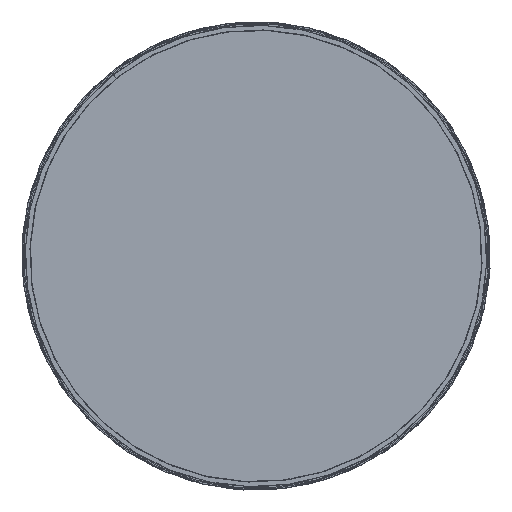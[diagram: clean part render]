
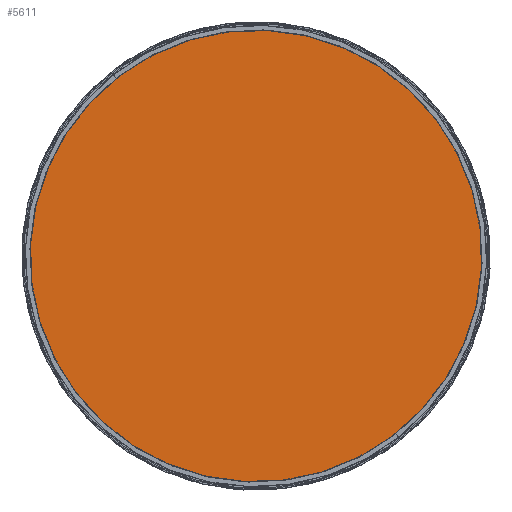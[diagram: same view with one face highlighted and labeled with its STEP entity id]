
A CAD part, front view. The second image highlights one B-rep face of the part: STEP entity #5611.
In plain terms, the highlighted planar face has unit normal (0, -1, 0).
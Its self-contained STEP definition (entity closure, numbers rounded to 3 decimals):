
#746 = DIRECTION ( 'NONE',  ( 0., 1., 0. ) ) ;
#2024 = VERTEX_POINT ( 'NONE', #13905 ) ;
#2545 = DIRECTION ( 'NONE',  ( 0., 0., 1. ) ) ;
#2661 = AXIS2_PLACEMENT_3D ( 'NONE', #16221, #3961, #2545 ) ;
#3807 = CARTESIAN_POINT ( 'NONE',  ( 0., 0., 0. ) ) ;
#3961 = DIRECTION ( 'NONE',  ( 0., 1., 0. ) ) ;
#5611 = ADVANCED_FACE ( 'NONE', ( #6952 ), #7423, .F. ) ;
#6952 = FACE_OUTER_BOUND ( 'NONE', #14653, .T. ) ;
#7423 = PLANE ( 'NONE',  #13575 ) ;
#7501 = DIRECTION ( 'NONE',  ( 0., 0., 1. ) ) ;
#8828 = ORIENTED_EDGE ( 'NONE', *, *, #16186, .F. ) ;
#10288 = CIRCLE ( 'NONE', #14908, 175. ) ;
#10753 = CARTESIAN_POINT ( 'NONE',  ( 0., 0., 175. ) ) ;
#13575 = AXIS2_PLACEMENT_3D ( 'NONE', #3807, #746, #7501 ) ;
#13905 = CARTESIAN_POINT ( 'NONE',  ( 0., 0., -175. ) ) ;
#14350 = EDGE_CURVE ( 'NONE', #19166, #2024, #20264, .T. ) ;
#14360 = CARTESIAN_POINT ( 'NONE',  ( 0., 0., 0. ) ) ;
#14505 = DIRECTION ( 'NONE',  ( 0., 1., 0. ) ) ;
#14653 = EDGE_LOOP ( 'NONE', ( #8828, #17330 ) ) ;
#14908 = AXIS2_PLACEMENT_3D ( 'NONE', #14360, #14505, #19688 ) ;
#16186 = EDGE_CURVE ( 'NONE', #2024, #19166, #10288, .T. ) ;
#16221 = CARTESIAN_POINT ( 'NONE',  ( 0., 0., 0. ) ) ;
#17330 = ORIENTED_EDGE ( 'NONE', *, *, #14350, .F. ) ;
#19166 = VERTEX_POINT ( 'NONE', #10753 ) ;
#19688 = DIRECTION ( 'NONE',  ( 0., 0., 1. ) ) ;
#20264 = CIRCLE ( 'NONE', #2661, 175. ) ;
